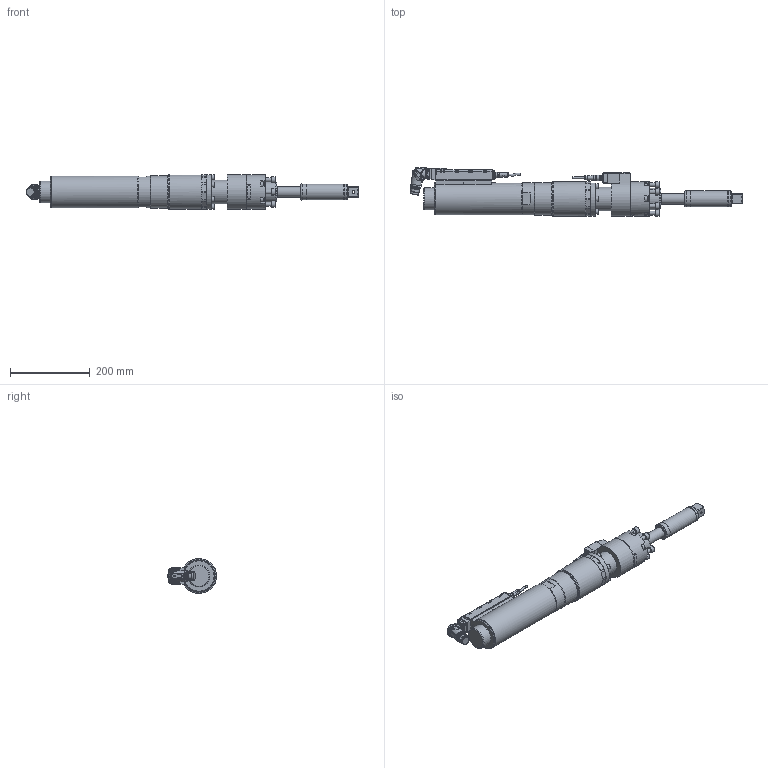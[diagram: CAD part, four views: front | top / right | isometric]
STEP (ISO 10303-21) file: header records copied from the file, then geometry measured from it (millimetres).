
FILE_DESCRIPTION (( 'STEP AP214' ), '1' );
FILE_NAME ('70082439_ESX461ZWRX800AZX460.STEP', '2016-11-14T10:28:47', ( 'admin' ), ( '' ), 'SwSTEP 2.0', 'SolidWorks 2014', '' );
FILE_SCHEMA (( 'AUTOMOTIVE_DESIGN' ));
Length unit declared in the file: millimetre
Products named in the file (11): 7006176_3; 70082373; 70082336; 70082311_ESX461_Standard_Winkel; 70082293_2; 70057493_Standard_winkel; 70057493_4; 70057493_3; 70057493_2; 70082311; 70082439_ESX461ZWRX800AZX460
Assembly tree (10 placements, depth 4):
  70082439_ESX461ZWRX800AZX460
    70082311_ESX461_Standard_Winkel
      70082311
      70057493_Standard_winkel
        70057493_2
        70057493_3
        70057493_4
      70082293_2
    70082336
    70082373
    7006176_3
Bounding box: 833.26 x 122.48 x 87 mm (x, y, z)
Volume: 3416471 mm3; surface area: 337396.3 mm2
Topology: 12 solids, 12 shells, 2565 faces, 6607 edges, 4286 vertices
Faces by surface type: plane 1277, cylinder 658, cone 283, bspline 264, torus 78, sphere 5
Full cylindrical faces by diameter (mm): 0.5 x7, 0.57 x14, 1.6 x2, 2 x3, 2.5 x1, 3 x4, 4.2 x1, 4.9 x2, 5 x9, 5.5 x12, 6 x2, 6.8 x12, 8 x34, 8.459 x2, 9 x2, 9.1 x1, 9.5 x1, 9.7 x1, 10 x6, 11.08 x1, 11.7 x1, 12 x1, 12.3 x1, 13 x19, 14 x3, 14.5 x2, 16 x6, 17.4 x1, 20 x1, 21.15 x1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
Entity records: 89800 total; most frequent: CARTESIAN_POINT 29930, ORIENTED_EDGE 12120, DIRECTION 10819, EDGE_CURVE 6060, VERTEX_POINT 4132, AXIS2_PLACEMENT_3D 4033, EDGE_LOOP 3196, FACE_OUTER_BOUND 2820
